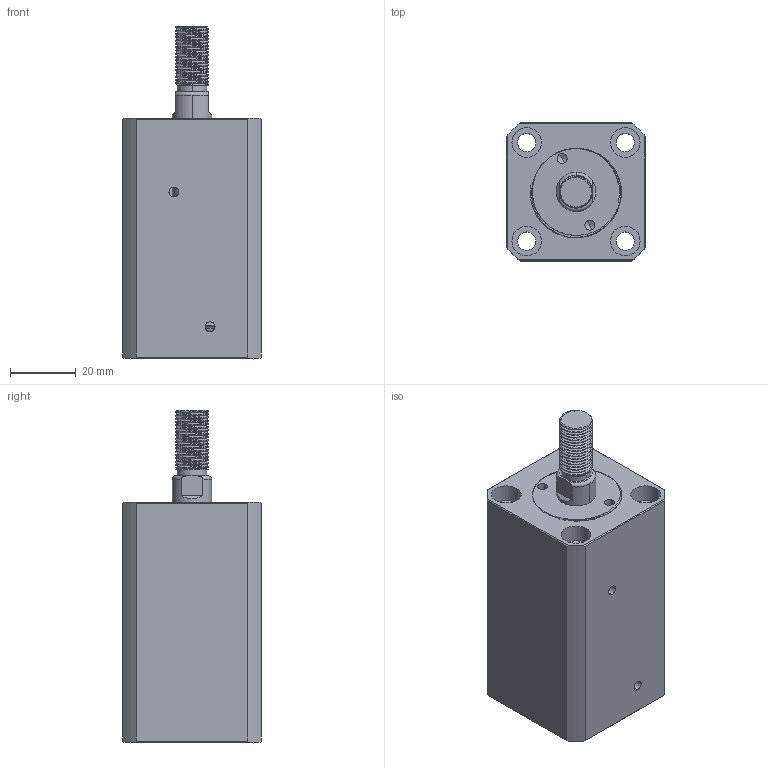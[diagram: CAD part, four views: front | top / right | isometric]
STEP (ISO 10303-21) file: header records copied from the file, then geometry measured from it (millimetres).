
FILE_DESCRIPTION (( 'STEP AP214' ), '1' );
FILE_NAME ('chtb-sdmb20x30w_asm.STEP', '2018-05-18T08:34:12', ( 'Windows' ), ( 'Microsoft' ), 'SwSTEP 2.0', 'SolidWorks 2015', '' );
FILE_SCHEMA (( 'AUTOMOTIVE_DESIGN' ));
Length unit declared in the file: millimetre
Products named in the file (4): QG_3; CHTB-SDMB20X30WHSG; CHTB-SDMB20X30NBT; chtb-sdmb20x30w_asm
Assembly tree (3 placements, depth 2):
  chtb-sdmb20x30w_asm
    CHTB-SDMB20X30NBT
    CHTB-SDMB20X30WHSG
    QG_3
Bounding box: 42 x 42 x 101 mm (x, y, z)
Volume: 112047.8 mm3; surface area: 35072.4 mm2
Topology: 3 solids, 3 shells, 243 faces, 660 edges, 439 vertices
Faces by surface type: cylinder 143, plane 47, torus 25, bspline 23, cone 5
Entity records: 14768 total; most frequent: CARTESIAN_POINT 8984, ORIENTED_EDGE 1312, DIRECTION 1058, EDGE_CURVE 656, VERTEX_POINT 439, AXIS2_PLACEMENT_3D 434, EDGE_LOOP 281, FACE_OUTER_BOUND 243
